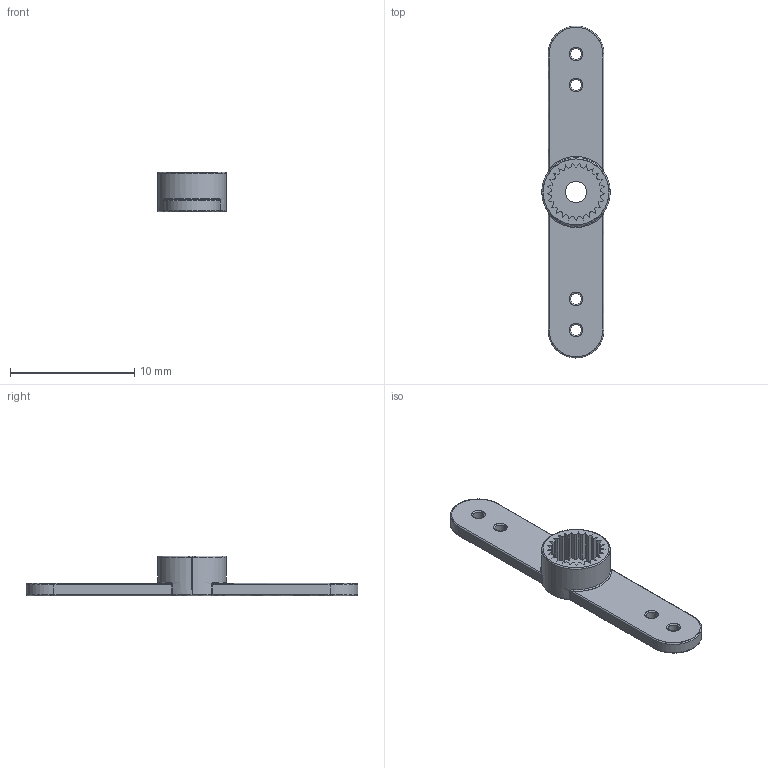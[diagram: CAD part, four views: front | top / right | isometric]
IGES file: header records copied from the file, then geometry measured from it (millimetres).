
Start section: SolidWorks IGES file using analytic representation for surfaces
Global section: file name: C:\Users\Alexandre\Dropbox\Etudes\Solidworks\Servo Mounts\Micro sized Servo Mount - x4_Double.igs; native system: SolidWorks 2015; preprocessor: SolidWorks 2015; author: Alexandre; date: 150906.122307; units: millimetre
Bounding box: 5.5 x 26.7 x 3.2 mm (x, y, z)
Surface area: 390.4 mm2 (no closed solid volume)
Topology: 0 solids, 0 shells, 150 faces, 1139 edges, 1137 vertices
Faces by surface type: bspline 97, revolution 53
